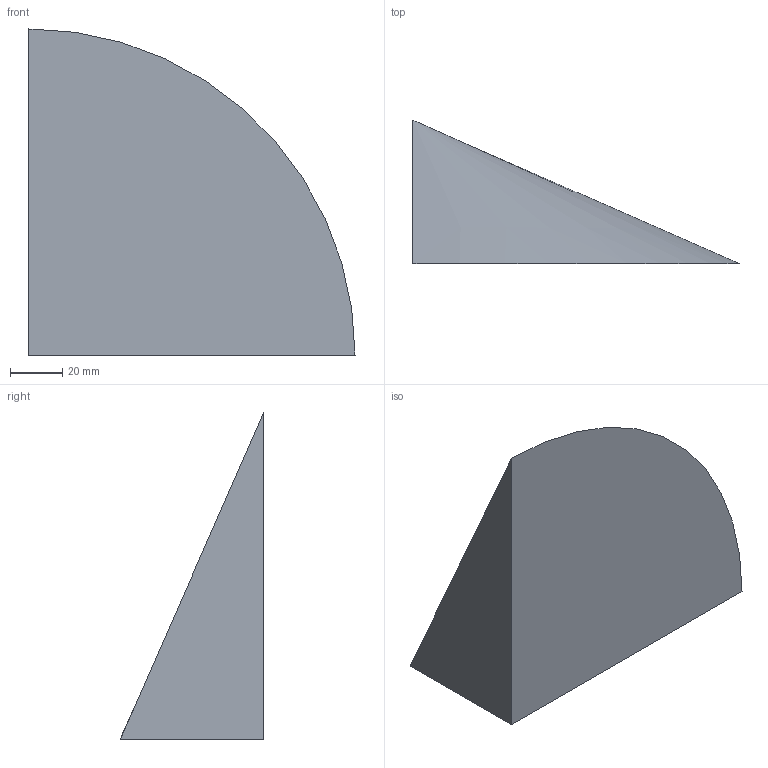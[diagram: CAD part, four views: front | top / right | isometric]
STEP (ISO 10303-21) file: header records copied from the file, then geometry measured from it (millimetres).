
FILE_DESCRIPTION(('CATIA V5 STEP Exchange'),'2;1');
FILE_NAME('C:\_Andres\UNIVERSIDAD\IQS\ASIGNATURAS\DAO\EXF\EXF-16172c\2inicio\Quiroga_Garcia_Ej07_v25.stp','2017-03-05T21:18:14+00:00',('none'),('none'),'CATIA Version 5-6 Release 2014 SP1 HF18','CATIA V5 STEP AP203','none');
FILE_SCHEMA(('CONFIG_CONTROL_DESIGN'));
Length unit declared in the file: millimetre
Products named in the file (1): Quiroga_Garcia_Ej07_v25
Bounding box: 125 x 55 x 125 mm (x, y, z)
Volume: 224983.8 mm3; surface area: 32554.1 mm2
Topology: 1 solids, 1 shells, 4 faces, 7 edges, 4 vertices
Faces by surface type: plane 3, cone 1
Entity records: 131 total; most frequent: CARTESIAN_POINT 15, DIRECTION 14, ORIENTED_EDGE 12, AXIS2_PLACEMENT_3D 6, EDGE_CURVE 6, VECTOR 5, LINE 5, ADVANCED_FACE 4
